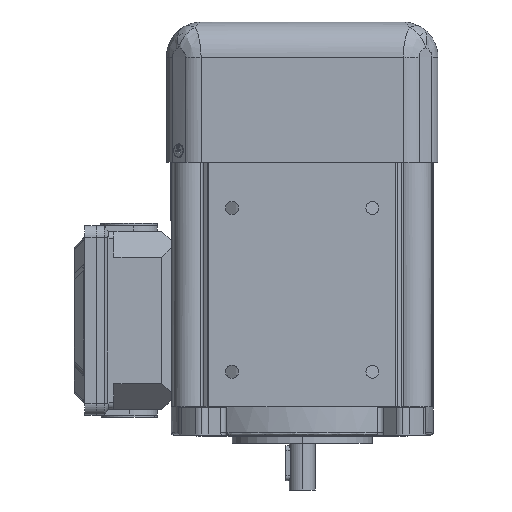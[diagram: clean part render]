
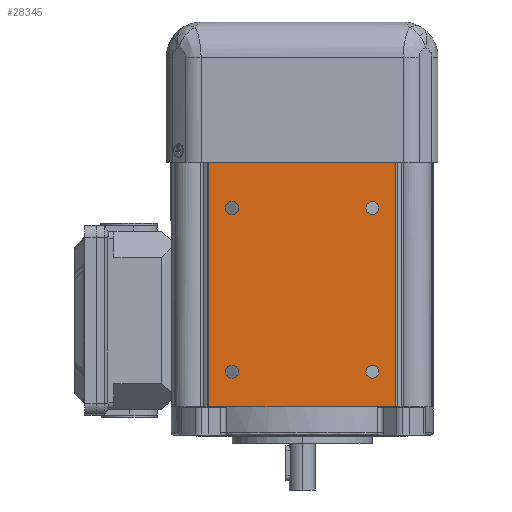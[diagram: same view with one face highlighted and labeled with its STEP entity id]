
A CAD part, left-side view. The second image highlights one B-rep face of the part: STEP entity #28345.
In plain terms, the highlighted planar face has unit normal (-1, 0, 0).
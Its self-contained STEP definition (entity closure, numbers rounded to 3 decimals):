
#203 = CARTESIAN_POINT ( 'NONE',  ( -64.778, -38.778, -38.581 ) ) ;
#1090 = EDGE_CURVE ( 'NONE', #43854, #58501, #26904, .T. ) ;
#1290 = DIRECTION ( 'NONE',  ( -1., 0., 0. ) ) ;
#1406 = ORIENTED_EDGE ( 'NONE', *, *, #1090, .T. ) ;
#1924 = EDGE_CURVE ( 'NONE', #47779, #73097, #48854, .T. ) ;
#2035 = DIRECTION ( 'NONE',  ( -1., 0., 0. ) ) ;
#2120 = DIRECTION ( 'NONE',  ( -1., 0., 0. ) ) ;
#2694 = CIRCLE ( 'NONE', #33207, 2.75 ) ;
#2958 = DIRECTION ( 'NONE',  ( 0., 1., 0. ) ) ;
#3022 = CARTESIAN_POINT ( 'NONE',  ( -64.778, 23.972, -38.581 ) ) ;
#3290 = EDGE_CURVE ( 'NONE', #13152, #41051, #34479, .T. ) ;
#5191 = DIRECTION ( 'NONE',  ( 0., -1., 0. ) ) ;
#5677 = AXIS2_PLACEMENT_3D ( 'NONE', #44184, #2120, #48831 ) ;
#7002 = CARTESIAN_POINT ( 'NONE',  ( -64.778, -38.778, -38.581 ) ) ;
#8303 = AXIS2_PLACEMENT_3D ( 'NONE', #7002, #2035, #42984 ) ;
#8761 = LINE ( 'NONE', #61528, #22701 ) ;
#9581 = EDGE_CURVE ( 'NONE', #41051, #13152, #2694, .T. ) ;
#10468 = AXIS2_PLACEMENT_3D ( 'NONE', #50015, #44276, #2958 ) ;
#10607 = VERTEX_POINT ( 'NONE', #21315 ) ;
#10774 = AXIS2_PLACEMENT_3D ( 'NONE', #53691, #1290, #24591 ) ;
#11342 = DIRECTION ( 'NONE',  ( -1., 0., 0. ) ) ;
#11906 = ORIENTED_EDGE ( 'NONE', *, *, #32375, .F. ) ;
#13045 = DIRECTION ( 'NONE',  ( -1., 0., 0. ) ) ;
#13152 = VERTEX_POINT ( 'NONE', #71398 ) ;
#13663 = VERTEX_POINT ( 'NONE', #29368 ) ;
#14711 = EDGE_CURVE ( 'NONE', #47779, #10607, #30796, .T. ) ;
#16009 = ORIENTED_EDGE ( 'NONE', *, *, #56718, .T. ) ;
#17920 = CIRCLE ( 'NONE', #5677, 2.75 ) ;
#19356 = DIRECTION ( 'NONE',  ( 0., 1., 0. ) ) ;
#21180 = EDGE_LOOP ( 'NONE', ( #11906, #33462 ) ) ;
#21289 = FACE_OUTER_BOUND ( 'NONE', #36369, .T. ) ;
#21315 = CARTESIAN_POINT ( 'NONE',  ( -64.778, -48.765, -53.581 ) ) ;
#22701 = VECTOR ( 'NONE', #27482, 1000. ) ;
#23582 = CARTESIAN_POINT ( 'NONE',  ( -64.778, 31.21, -53.581 ) ) ;
#23882 = DIRECTION ( 'NONE',  ( -1., 0., 0. ) ) ;
#24114 = DIRECTION ( 'NONE',  ( 0., -1., 0. ) ) ;
#24591 = DIRECTION ( 'NONE',  ( 0., -1., 0. ) ) ;
#25006 = ORIENTED_EDGE ( 'NONE', *, *, #30708, .F. ) ;
#25319 = AXIS2_PLACEMENT_3D ( 'NONE', #47539, #13045, #24114 ) ;
#26904 = LINE ( 'NONE', #50280, #39723 ) ;
#27010 = VECTOR ( 'NONE', #19356, 1000. ) ;
#27043 = DIRECTION ( 'NONE',  ( 0., -1., 0. ) ) ;
#27482 = DIRECTION ( 'NONE',  ( 0., 0., 1. ) ) ;
#27761 = CIRCLE ( 'NONE', #25319, 2.75 ) ;
#28097 = CARTESIAN_POINT ( 'NONE',  ( -64.778, -41.528, 31.419 ) ) ;
#28345 = ADVANCED_FACE ( 'NONE', ( #62170, #51122, #45008, #73671, #21289 ), #67980, .F. ) ;
#28538 = VERTEX_POINT ( 'NONE', #72773 ) ;
#29014 = ORIENTED_EDGE ( 'NONE', *, *, #54109, .F. ) ;
#29368 = CARTESIAN_POINT ( 'NONE',  ( -64.778, 23.972, 31.419 ) ) ;
#29773 = EDGE_CURVE ( 'NONE', #46803, #28538, #66989, .T. ) ;
#30282 = EDGE_CURVE ( 'NONE', #65436, #44766, #27761, .T. ) ;
#30708 = EDGE_CURVE ( 'NONE', #13663, #33286, #48719, .T. ) ;
#30796 = LINE ( 'NONE', #71380, #43799 ) ;
#32375 = EDGE_CURVE ( 'NONE', #28538, #46803, #63699, .T. ) ;
#33207 = AXIS2_PLACEMENT_3D ( 'NONE', #47897, #54312, #42134 ) ;
#33286 = VERTEX_POINT ( 'NONE', #63530 ) ;
#33462 = ORIENTED_EDGE ( 'NONE', *, *, #29773, .F. ) ;
#34306 = CARTESIAN_POINT ( 'NONE',  ( -64.778, -8.778, -53.581 ) ) ;
#34479 = CIRCLE ( 'NONE', #38144, 2.75 ) ;
#34813 = CARTESIAN_POINT ( 'NONE',  ( -64.778, -36.028, -38.581 ) ) ;
#36369 = EDGE_LOOP ( 'NONE', ( #69315, #29014, #1406, #16009, #65289 ) ) ;
#36585 = CARTESIAN_POINT ( 'NONE',  ( -64.778, 49.222, 50.919 ) ) ;
#36891 = AXIS2_PLACEMENT_3D ( 'NONE', #203, #23882, #71744 ) ;
#38144 = AXIS2_PLACEMENT_3D ( 'NONE', #45447, #11342, #46215 ) ;
#39723 = VECTOR ( 'NONE', #66398, 1000. ) ;
#41051 = VERTEX_POINT ( 'NONE', #3022 ) ;
#42134 = DIRECTION ( 'NONE',  ( 0., -1., 0. ) ) ;
#42666 = EDGE_CURVE ( 'NONE', #33286, #13663, #17920, .T. ) ;
#42984 = DIRECTION ( 'NONE',  ( 0., -1., 0. ) ) ;
#43542 = CARTESIAN_POINT ( 'NONE',  ( -64.778, -38.778, 31.419 ) ) ;
#43799 = VECTOR ( 'NONE', #70611, 1000. ) ;
#43854 = VERTEX_POINT ( 'NONE', #23582 ) ;
#44184 = CARTESIAN_POINT ( 'NONE',  ( -64.778, 21.222, 31.419 ) ) ;
#44276 = DIRECTION ( 'NONE',  ( 1., 0., 0. ) ) ;
#44766 = VERTEX_POINT ( 'NONE', #65320 ) ;
#45008 = FACE_BOUND ( 'NONE', #21180, .T. ) ;
#45447 = CARTESIAN_POINT ( 'NONE',  ( -64.778, 21.222, -38.581 ) ) ;
#45744 = CIRCLE ( 'NONE', #54243, 2.75 ) ;
#46215 = DIRECTION ( 'NONE',  ( 0., -1., 0. ) ) ;
#46803 = VERTEX_POINT ( 'NONE', #34813 ) ;
#47539 = CARTESIAN_POINT ( 'NONE',  ( -64.778, -38.778, 31.419 ) ) ;
#47779 = VERTEX_POINT ( 'NONE', #60374 ) ;
#47897 = CARTESIAN_POINT ( 'NONE',  ( -64.778, 21.222, -38.581 ) ) ;
#48169 = ORIENTED_EDGE ( 'NONE', *, *, #9581, .F. ) ;
#48719 = CIRCLE ( 'NONE', #10774, 2.75 ) ;
#48831 = DIRECTION ( 'NONE',  ( 0., -1., 0. ) ) ;
#48854 = LINE ( 'NONE', #36585, #27010 ) ;
#50015 = CARTESIAN_POINT ( 'NONE',  ( -64.778, 31.21, 63.419 ) ) ;
#50280 = CARTESIAN_POINT ( 'NONE',  ( -64.778, -8.778, -53.581 ) ) ;
#51122 = FACE_BOUND ( 'NONE', #75528, .T. ) ;
#51929 = ORIENTED_EDGE ( 'NONE', *, *, #56587, .F. ) ;
#52051 = EDGE_LOOP ( 'NONE', ( #61680, #48169 ) ) ;
#53691 = CARTESIAN_POINT ( 'NONE',  ( -64.778, 21.222, 31.419 ) ) ;
#54109 = EDGE_CURVE ( 'NONE', #43854, #73097, #8761, .T. ) ;
#54243 = AXIS2_PLACEMENT_3D ( 'NONE', #43542, #72981, #27043 ) ;
#54312 = DIRECTION ( 'NONE',  ( -1., 0., 0. ) ) ;
#56587 = EDGE_CURVE ( 'NONE', #44766, #65436, #45744, .T. ) ;
#56614 = CARTESIAN_POINT ( 'NONE',  ( -64.778, 31.21, 50.919 ) ) ;
#56671 = VECTOR ( 'NONE', #5191, 1000. ) ;
#56718 = EDGE_CURVE ( 'NONE', #58501, #10607, #68746, .T. ) ;
#58501 = VERTEX_POINT ( 'NONE', #67754 ) ;
#60374 = CARTESIAN_POINT ( 'NONE',  ( -64.778, -48.765, 50.919 ) ) ;
#60843 = ORIENTED_EDGE ( 'NONE', *, *, #30282, .F. ) ;
#61389 = ORIENTED_EDGE ( 'NONE', *, *, #42666, .F. ) ;
#61528 = CARTESIAN_POINT ( 'NONE',  ( -64.778, 31.21, 63.419 ) ) ;
#61680 = ORIENTED_EDGE ( 'NONE', *, *, #3290, .F. ) ;
#62170 = FACE_BOUND ( 'NONE', #52051, .T. ) ;
#63530 = CARTESIAN_POINT ( 'NONE',  ( -64.778, 18.472, 31.419 ) ) ;
#63699 = CIRCLE ( 'NONE', #36891, 2.75 ) ;
#65289 = ORIENTED_EDGE ( 'NONE', *, *, #14711, .F. ) ;
#65320 = CARTESIAN_POINT ( 'NONE',  ( -64.778, -36.028, 31.419 ) ) ;
#65436 = VERTEX_POINT ( 'NONE', #28097 ) ;
#66398 = DIRECTION ( 'NONE',  ( 0., -1., 0. ) ) ;
#66989 = CIRCLE ( 'NONE', #8303, 2.75 ) ;
#67754 = CARTESIAN_POINT ( 'NONE',  ( -64.778, -8.778, -53.581 ) ) ;
#67980 = PLANE ( 'NONE',  #10468 ) ;
#68746 = LINE ( 'NONE', #34306, #56671 ) ;
#69315 = ORIENTED_EDGE ( 'NONE', *, *, #1924, .T. ) ;
#70611 = DIRECTION ( 'NONE',  ( 0., 0., -1. ) ) ;
#71380 = CARTESIAN_POINT ( 'NONE',  ( -64.778, -48.765, 63.419 ) ) ;
#71398 = CARTESIAN_POINT ( 'NONE',  ( -64.778, 18.472, -38.581 ) ) ;
#71744 = DIRECTION ( 'NONE',  ( 0., -1., 0. ) ) ;
#72773 = CARTESIAN_POINT ( 'NONE',  ( -64.778, -41.528, -38.581 ) ) ;
#72981 = DIRECTION ( 'NONE',  ( -1., 0., 0. ) ) ;
#73097 = VERTEX_POINT ( 'NONE', #56614 ) ;
#73671 = FACE_BOUND ( 'NONE', #74813, .T. ) ;
#74813 = EDGE_LOOP ( 'NONE', ( #61389, #25006 ) ) ;
#75528 = EDGE_LOOP ( 'NONE', ( #60843, #51929 ) ) ;
